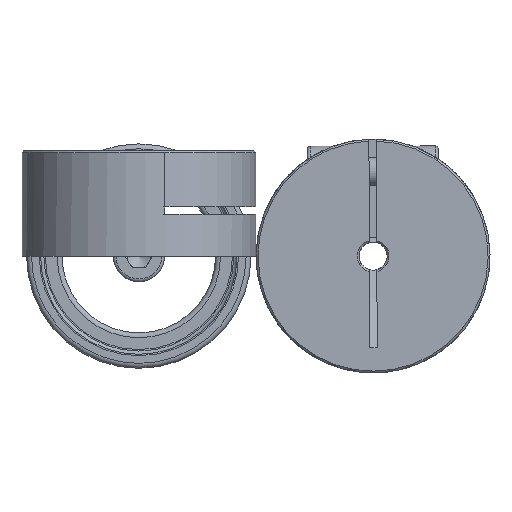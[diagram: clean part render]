
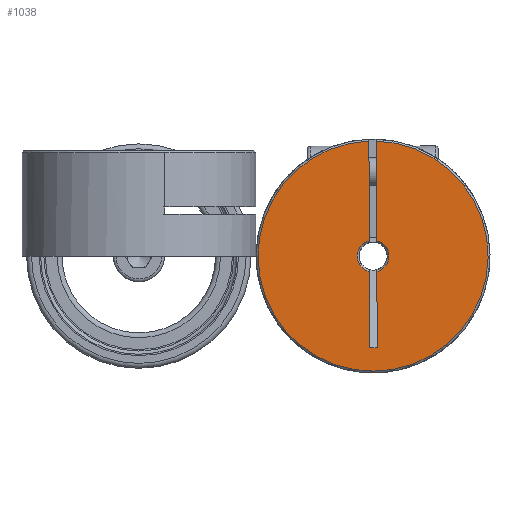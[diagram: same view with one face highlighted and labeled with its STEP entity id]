
A CAD part, left-side view. The second image highlights one B-rep face of the part: STEP entity #1038.
In plain terms, the highlighted planar face has unit normal (-1, 0, 0) as drawn and (0, 0, 1) by its records, which use the part's own axes.
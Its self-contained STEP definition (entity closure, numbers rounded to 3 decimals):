
#1038 = ADVANCED_FACE( 'NONE', ( #1615 ), #1616, .T. );
#1615 = FACE_OUTER_BOUND( '', #1876, .T. );
#1616 = PLANE( '', #1877 );
#1876 = EDGE_LOOP( '', ( #2402, #2403, #2404, #2405, #2406, #2407, #2408, #2409 ) );
#1877 = AXIS2_PLACEMENT_3D( '', #2410, #2411, #2412 );
#2402 = ORIENTED_EDGE( '', *, *, #2724, .F. );
#2403 = ORIENTED_EDGE( '', *, *, #2747, .T. );
#2404 = ORIENTED_EDGE( '', *, *, #2741, .F. );
#2405 = ORIENTED_EDGE( '', *, *, #2737, .T. );
#2406 = ORIENTED_EDGE( '', *, *, #2726, .T. );
#2407 = ORIENTED_EDGE( '', *, *, #2707, .T. );
#2408 = ORIENTED_EDGE( '', *, *, #2721, .T. );
#2409 = ORIENTED_EDGE( '', *, *, #2751, .F. );
#2410 = CARTESIAN_POINT( '', ( 0., 0., 11.25 ) );
#2411 = DIRECTION( '', ( 0., 0., 1. ) );
#2412 = DIRECTION( '', ( 1., 0., 0. ) );
#2707 = EDGE_CURVE( 'NONE', #3066, #3063, #3067, .F. );
#2721 = EDGE_CURVE( 'NONE', #3063, #3092, #3093, .T. );
#2724 = EDGE_CURVE( 'NONE', #3095, #3097, #3098, .F. );
#2726 = EDGE_CURVE( 'NONE', #3100, #3066, #3101, .T. );
#2737 = EDGE_CURVE( 'NONE', #3119, #3100, #3120, .T. );
#2741 = EDGE_CURVE( 'NONE', #3119, #3125, #3126, .T. );
#2747 = EDGE_CURVE( 'NONE', #3095, #3125, #3134, .F. );
#2751 = EDGE_CURVE( 'NONE', #3097, #3092, #3139, .F. );
#3063 = VERTEX_POINT( 'NONE', #3291 );
#3066 = VERTEX_POINT( 'NONE', #3297 );
#3067 = CIRCLE( '', #3298, 1.7 );
#3092 = VERTEX_POINT( 'NONE', #3338 );
#3093 = LINE( '', #3339, #3340 );
#3095 = VERTEX_POINT( 'NONE', #3342 );
#3097 = VERTEX_POINT( 'NONE', #3347 );
#3098 = LINE( '', #3348, #3349 );
#3100 = VERTEX_POINT( 'NONE', #3351 );
#3101 = LINE( '', #3352, #3353 );
#3119 = VERTEX_POINT( 'NONE', #3378 );
#3120 = CIRCLE( '', #3379, 12.3 );
#3125 = VERTEX_POINT( 'NONE', #3388 );
#3126 = LINE( '', #3389, #3390 );
#3134 = CIRCLE( '', #3403, 1.7 );
#3139 = LINE( '', #3456, #3457 );
#3291 = CARTESIAN_POINT( '', ( -1.652, -0.4, 11.25 ) );
#3297 = CARTESIAN_POINT( '', ( 1.652, -0.4, 11.25 ) );
#3298 = AXIS2_PLACEMENT_3D( '', #3532, #3533, #3534 );
#3338 = CARTESIAN_POINT( '', ( -9.815, -0.4, 11.25 ) );
#3339 = CARTESIAN_POINT( '', ( 0., -0.4, 11.25 ) );
#3340 = VECTOR( '', #3553, 1000. );
#3342 = CARTESIAN_POINT( '', ( -1.652, 0.4, 11.25 ) );
#3347 = CARTESIAN_POINT( '', ( -9.815, 0.4, 11.25 ) );
#3348 = CARTESIAN_POINT( '', ( 7., 0.4, 11.25 ) );
#3349 = VECTOR( '', #3557, 1000. );
#3351 = CARTESIAN_POINT( '', ( 12.293, -0.4, 11.25 ) );
#3352 = CARTESIAN_POINT( '', ( 0., -0.4, 11.25 ) );
#3353 = VECTOR( '', #3561, 1000. );
#3378 = CARTESIAN_POINT( '', ( 12.293, 0.4, 11.25 ) );
#3379 = AXIS2_PLACEMENT_3D( '', #3581, #3582, #3583 );
#3388 = CARTESIAN_POINT( '', ( 1.652, 0.4, 11.25 ) );
#3389 = CARTESIAN_POINT( '', ( 0., 0.4, 11.25 ) );
#3390 = VECTOR( '', #3588, 1000. );
#3403 = AXIS2_PLACEMENT_3D( '', #3597, #3598, #3599 );
#3456 = CARTESIAN_POINT( '', ( -9.815, -0.4, 11.25 ) );
#3457 = VECTOR( '', #3604, 1000. );
#3532 = CARTESIAN_POINT( '', ( 0., 0., 11.25 ) );
#3533 = DIRECTION( '', ( 0., 0., 1. ) );
#3534 = DIRECTION( '', ( 1., 0., 0. ) );
#3553 = DIRECTION( '', ( -1., 0., 0. ) );
#3557 = DIRECTION( '', ( 1., 0., 0. ) );
#3561 = DIRECTION( '', ( -1., 0., 0. ) );
#3581 = CARTESIAN_POINT( '', ( 0., 0., 11.25 ) );
#3582 = DIRECTION( '', ( 0., 0., 1. ) );
#3583 = DIRECTION( '', ( 1., 0., 0. ) );
#3588 = DIRECTION( '', ( -1., 0., 0. ) );
#3597 = CARTESIAN_POINT( '', ( 0., 0., 11.25 ) );
#3598 = DIRECTION( '', ( 0., 0., 1. ) );
#3599 = DIRECTION( '', ( 1., 0., 0. ) );
#3604 = DIRECTION( '', ( 0., 1., 0. ) );
